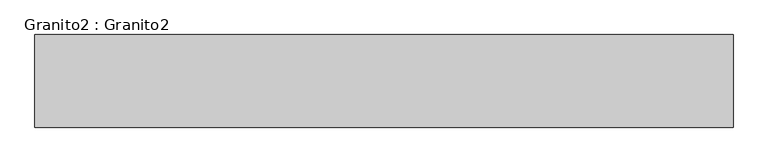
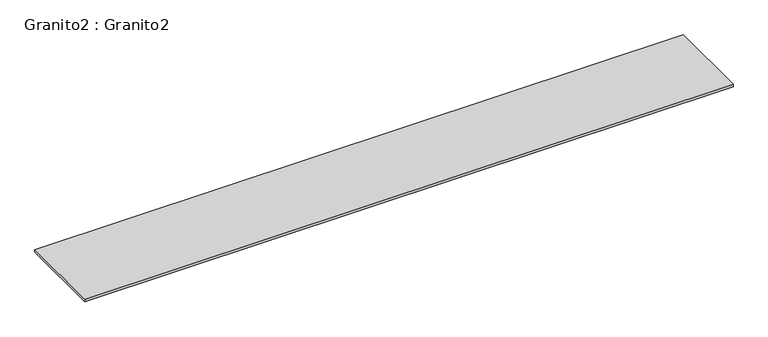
"""IFC4 building model written with IfcOpenShell, lengths in millimetres: furniture geometry, Granito2 : Granito2."""

from ifc_helpers import new_model, si_unit, frame, origin, place, context, project, spatial, polyline, outline, extrude, source, transform, mapped, element, save


def granito2_granito2_dfa68531(model_context):
    return source(origin(), model_context, "Body", "SweptSolid", [
        extrude(outline(polyline([(1277.6165906, -1642.0637549), (-3242.3834094, -1642.0637549), (-3242.3834094, -1042.0637549), (1277.6165906, -1042.0637549), (1277.6165906, -1642.0637549)])), frame((0.0, 0.0, 900.0), z_axis=(0.0, 0.0, 1.0), x_axis=(1.0, 0.0, 0.0)), (0.0, 0.0, 1.0), 20.0),
    ])


if __name__ == "__main__":
    model = new_model("IFC4")
    model_context = context("Model", 3, world=origin())
    ifc_project = project(units=[si_unit("LENGTHUNIT", "METRE", prefix="MILLI")], contexts=[model_context])
    site = spatial("IfcSite", under=ifc_project)
    building = spatial("IfcBuilding", under=site)
    placement = place(None, origin())
    granito2_granito2_shape = granito2_granito2_dfa68531(model_context)
    element("IfcFurniture", 1, ObjectType="Granito2 : Granito2", at=placement, inside=building, context=model_context, shape_type="MappedRepresentation", body=[
        mapped(granito2_granito2_shape, transform((0.0, 0.0, 0.0), x_axis=(1.0, 0.0, 0.0), y_axis=(0.0, 1.0, 0.0), z_axis=(0.0, 0.0, 1.0))),
    ])
    save(model, "model.ifc")
